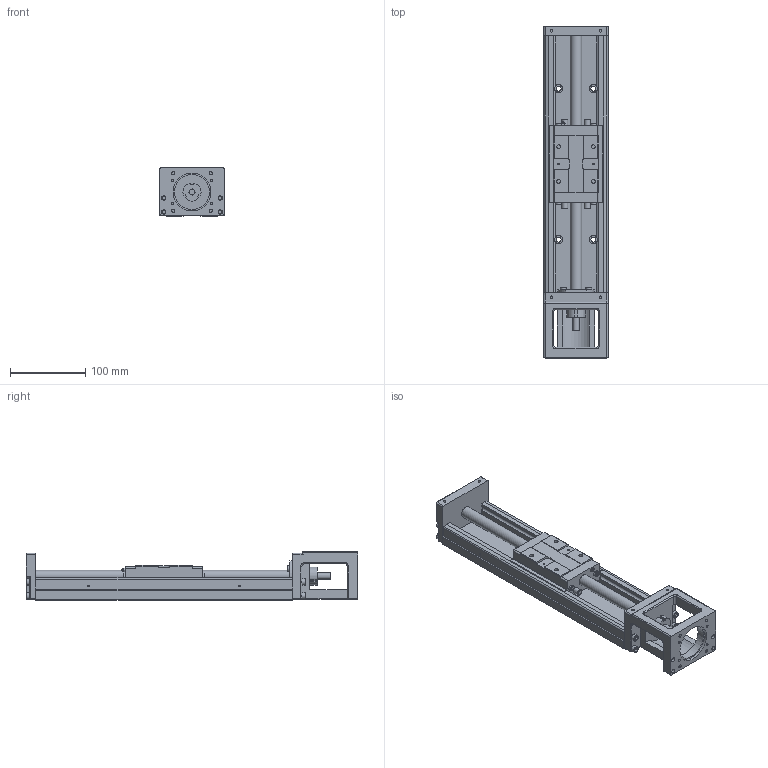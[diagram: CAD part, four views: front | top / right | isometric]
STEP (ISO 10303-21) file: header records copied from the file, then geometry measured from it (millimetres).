
FILE_DESCRIPTION(/* description */ (''),/* implementation_level */ '2;1');
FILE_NAME(/* name */ 'FKL80E340 05(10.16)C7.stp',/* time_stamp */ '2018-12-26T09:43:58+08:00',/* author */ (''),/* organization */ (''),/* preprocessor_version */ 'ST-DEVELOPER v16',/* originating_system */ 'SIEMENS PLM Software NX 10.0',/* authorisation */ '');
FILE_SCHEMA (('AUTOMOTIVE_DESIGN { 1 0 10303 214 3 1 1 1 }'));
Length unit declared in the file: millimetre
Products named in the file (3): 滑块.KK86-A1; 轨道.KK86-340; FKL80E340 05(10.16)C7
Assembly tree (2 placements, depth 2):
  FKL80E340 05(10.16)C7
    轨道.KK86-340
    滑块.KK86-A1
Bounding box: 86 x 440 x 64 mm (x, y, z)
Volume: 922390.8 mm3; surface area: 198478.1 mm2
Topology: 2 solids, 2 shells, 494 faces, 1259 edges, 824 vertices
Faces by surface type: plane 293, cylinder 155, torus 20, cone 17, sphere 9
Full cylindrical faces by diameter (mm): 2.05 x4, 2.15 x2, 3.3 x9, 4.2 x4, 4.5 x4, 5 x4, 5.5 x4, 6.5 x2, 6.6 x6, 7.5 x8, 8 x5, 8.5 x8, 11 x6, 15 x2, 19 x1, 46 x1, 50 x1
Entity records: 14314 total; most frequent: CARTESIAN_POINT 2491, DIRECTION 2417, ORIENTED_EDGE 2178, EDGE_CURVE 1089, AXIS2_PLACEMENT_3D 850, VERTEX_POINT 751, LINE 717, VECTOR 717
